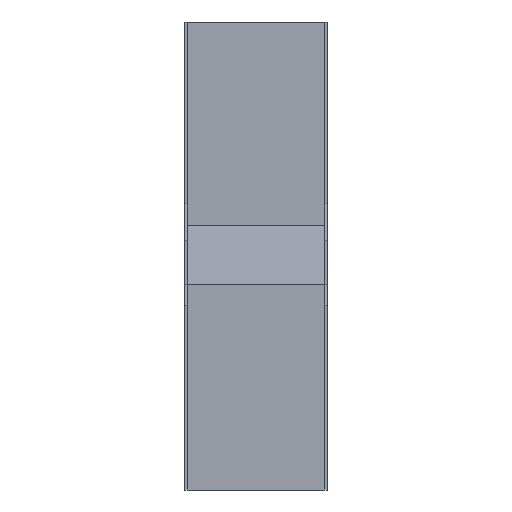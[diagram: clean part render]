
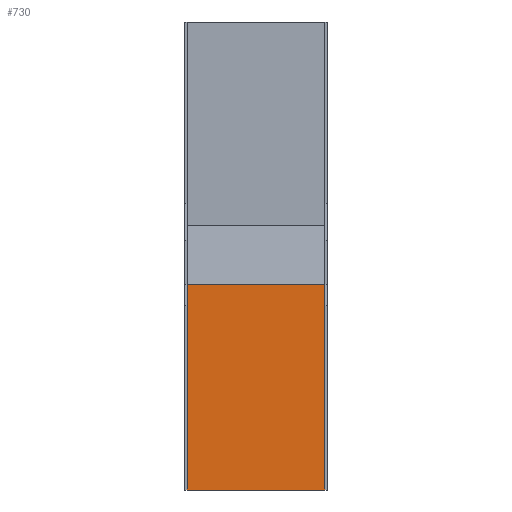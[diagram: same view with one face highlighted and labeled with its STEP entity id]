
A CAD part, left-side view. The second image highlights one B-rep face of the part: STEP entity #730.
In plain terms, the highlighted planar face has unit normal (-1, 0, 0).
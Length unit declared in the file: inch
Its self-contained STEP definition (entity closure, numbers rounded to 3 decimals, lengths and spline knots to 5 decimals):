
#109=DIRECTION('',(0.,0.,-1.));
#110=VECTOR('',#109,6.0433);
#111=CARTESIAN_POINT('',(-3.075,4.11,-7.68875));
#112=LINE('',#111,#110);
#145=DIRECTION('',(0.,0.,-1.));
#146=VECTOR('',#145,6.0433);
#147=CARTESIAN_POINT('',(-3.075,0.08,-7.68875));
#148=LINE('',#147,#146);
#149=DIRECTION('',(0.,1.,0.));
#150=VECTOR('',#149,4.03);
#151=CARTESIAN_POINT('',(-3.075,0.08,-7.68875));
#152=LINE('',#151,#150);
#161=DIRECTION('',(0.,1.,0.));
#162=VECTOR('',#161,4.03);
#163=CARTESIAN_POINT('',(-3.075,0.08,-13.73205));
#164=LINE('',#163,#162);
#437=CARTESIAN_POINT('',(-3.075,0.08,-7.68875));
#438=CARTESIAN_POINT('',(-3.075,4.11,-7.68875));
#439=VERTEX_POINT('',#437);
#440=VERTEX_POINT('',#438);
#457=CARTESIAN_POINT('',(-3.075,0.08,-13.73205));
#458=VERTEX_POINT('',#457);
#459=CARTESIAN_POINT('',(-3.075,4.11,-13.73205));
#460=VERTEX_POINT('',#459);
#718=CARTESIAN_POINT('',(-3.075,0.08,-7.73205));
#719=DIRECTION('',(-1.,0.,0.));
#720=DIRECTION('',(0.,1.,0.));
#721=AXIS2_PLACEMENT_3D('',#718,#719,#720);
#722=PLANE('',#721);
#723=ORIENTED_EDGE('',*,*,#700,.T.);
#725=ORIENTED_EDGE('',*,*,#724,.T.);
#726=ORIENTED_EDGE('',*,*,#649,.F.);
#727=ORIENTED_EDGE('',*,*,#711,.F.);
#728=EDGE_LOOP('',(#723,#725,#726,#727));
#729=FACE_OUTER_BOUND('',#728,.F.);
#730=ADVANCED_FACE('',(#729),#722,.T.);
#649=EDGE_CURVE('',#440,#460,#112,.T.);
#700=EDGE_CURVE('',#439,#458,#148,.T.);
#711=EDGE_CURVE('',#439,#440,#152,.T.);
#724=EDGE_CURVE('',#458,#460,#164,.T.);
